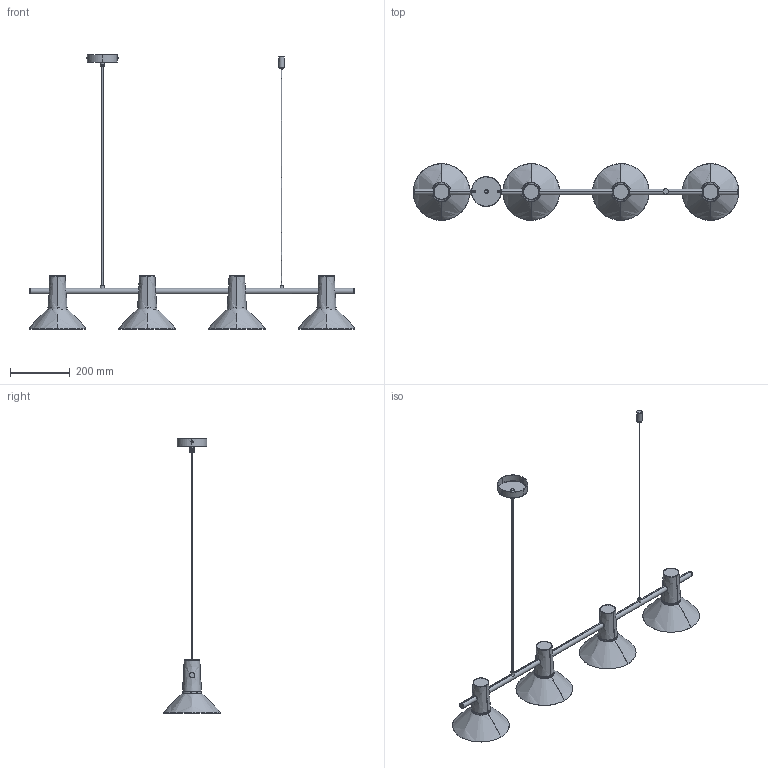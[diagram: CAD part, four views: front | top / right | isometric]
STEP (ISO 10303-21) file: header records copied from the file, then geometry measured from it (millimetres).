
FILE_DESCRIPTION (( 'STEP AP214' ), '1' );
FILE_NAME ('HUDO_C1366_4.STEP', '2026-06-16T15:07:11', ( '' ), ( '' ), 'SwSTEP 2.0', 'SolidWorks 2023', '' );
FILE_SCHEMA (( 'AUTOMOTIVE_DESIGN' ));
Length unit declared in the file: millimetre
Products named in the file (1): HUDO_C1366_4
Bounding box: 1090.01 x 190.01 x 917.36 mm (x, y, z)
Volume: 1710562.7 mm3; surface area: 865677.2 mm2
Topology: 41 solids, 41 shells, 1657 faces, 3872 edges, 2298 vertices
Faces by surface type: bspline 1458, plane 199
Entity records: 67684 total; most frequent: CARTESIAN_POINT 46176, ORIENTED_EDGE 7696, EDGE_CURVE 3848, VERTEX_POINT 2298, EDGE_LOOP 1732, ADVANCED_FACE 1657, FACE_OUTER_BOUND 1657, B_SPLINE_CURVE_WITH_KNOTS 1199
